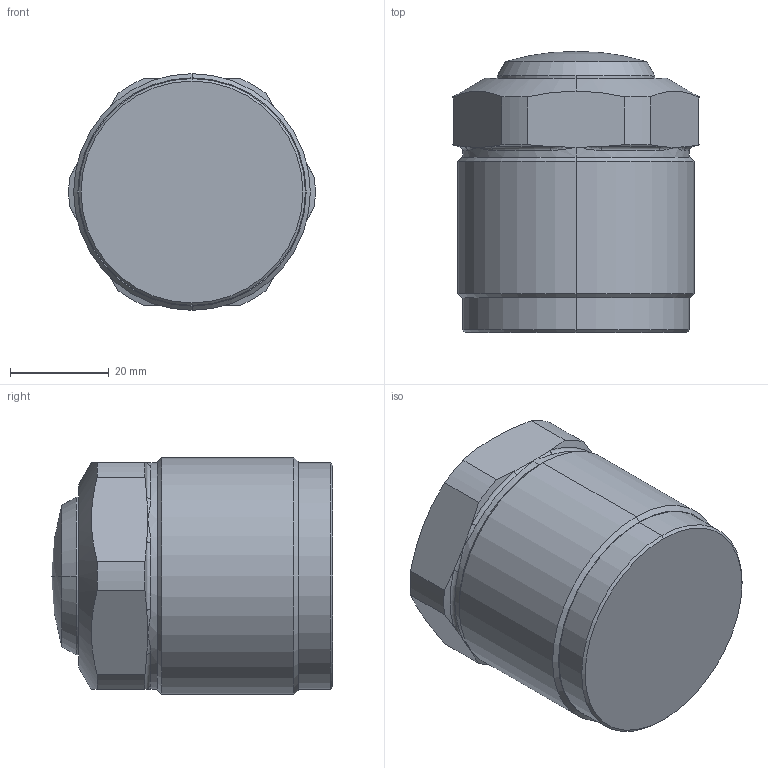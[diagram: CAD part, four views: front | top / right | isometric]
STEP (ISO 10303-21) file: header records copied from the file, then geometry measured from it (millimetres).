
FILE_DESCRIPTION((' '),'2;1');
FILE_NAME( 'CMC20-10R.X_T.stp', '2024-08-27T13:58:39', (' '), ('--- Datakit www.datakit.com---'), ' Datakit CrossCadWare V2024.1 Dec 21 2023', 'Mastercam 2025', ' ');
FILE_SCHEMA(('AUTOMOTIVE_DESIGN { 1 0 10303 214 1 1 1 1 }'));
Length unit declared in the file: millimetre
Products named in the file (1): CMC20-10R
Bounding box: 49.96 x 57 x 48 mm (x, y, z)
Volume: 93609.5 mm3; surface area: 14876.1 mm2
Topology: 2 solids, 2 shells, 64 faces, 158 edges, 87 vertices
Faces by surface type: cylinder 16, cone 16, plane 12, bspline 12, torus 6, sphere 2
Entity records: 3834 total; most frequent: CARTESIAN_POINT 2452, ORIENTED_EDGE 288, DIRECTION 274, EDGE_CURVE 144, AXIS2_PLACEMENT_3D 121, VERTEX_POINT 87, CIRCLE 68, EDGE_LOOP 67
